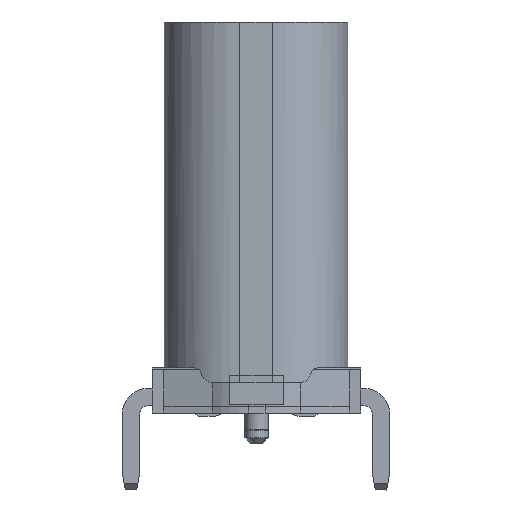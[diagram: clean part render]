
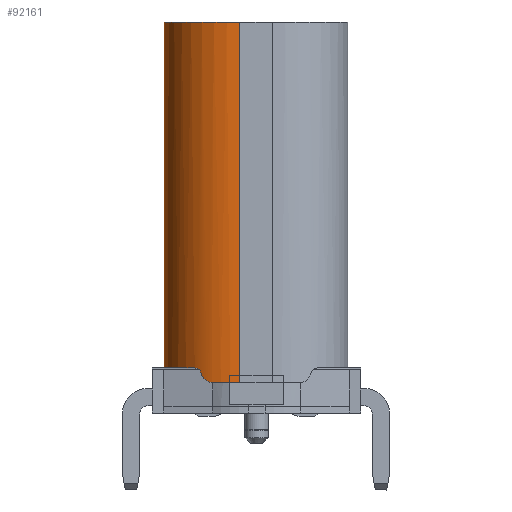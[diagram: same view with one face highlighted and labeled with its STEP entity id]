
A CAD part, left-side view. The second image highlights one B-rep face of the part: STEP entity #92161.
In plain terms, the highlighted cylindrical face has radius 1.3 mm (diameter 2.6 mm), a partial arc.
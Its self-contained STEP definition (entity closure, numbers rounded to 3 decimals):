
#88059=CARTESIAN_POINT('',(-64.57,-1.771,-47.193));
#88060=DIRECTION('',(0.,0.,1.));
#88061=DIRECTION('',(-0.928,0.371,0.));
#88062=AXIS2_PLACEMENT_3D('',#88059,#88060,#88061);
#88087=CARTESIAN_POINT('',(-64.57,-1.771,-40.993));
#88088=DIRECTION('',(0.,0.,1.));
#88089=DIRECTION('',(0.,1.,0.));
#88090=AXIS2_PLACEMENT_3D('',#88087,#88088,#88089);
#88092=DIRECTION('',(0.,0.,-1.));
#88093=VECTOR('',#88092,6.2);
#88094=CARTESIAN_POINT('',(-65.87,-1.771,-40.993));
#88095=LINE('',#88094,#88093);
#88096=CARTESIAN_POINT('',(-65.777,-1.289,
-47.193));
#88097=CARTESIAN_POINT('',(-65.771,-1.273,-47.193));
#88098=CARTESIAN_POINT('',(-65.758,-1.242,
-47.189));
#88099=CARTESIAN_POINT('',(-65.737,-1.197,
-47.169));
#88100=CARTESIAN_POINT('',(-65.718,-1.161,
-47.139));
#88101=CARTESIAN_POINT('',(-65.702,-1.132,
-47.097));
#88102=CARTESIAN_POINT('',(-65.695,-1.12,
-47.067));
#88103=CARTESIAN_POINT('',(-65.693,-1.116,
-47.05));
#88105=DIRECTION('',(0.,0.,1.));
#88106=VECTOR('',#88105,5.95);
#88107=CARTESIAN_POINT('',(-64.57,-0.471,-46.943));
#88108=LINE('',#88107,#88106);
#88169=CARTESIAN_POINT('',(-65.613,-0.996,
-46.943));
#88170=CARTESIAN_POINT('',(-65.621,-1.006,
-46.943));
#88171=CARTESIAN_POINT('',(-65.636,-1.027,
-46.946));
#88172=CARTESIAN_POINT('',(-65.656,-1.057,
-46.961));
#88173=CARTESIAN_POINT('',(-65.673,-1.083,
-46.984));
#88174=CARTESIAN_POINT('',(-65.685,-1.104,
-47.014));
#88175=CARTESIAN_POINT('',(-65.691,-1.113,
-47.038));
#88176=CARTESIAN_POINT('',(-65.693,-1.116,
-47.05));
#88209=CARTESIAN_POINT('',(-64.57,-1.771,-46.943));
#88210=DIRECTION('',(0.,0.,1.));
#88211=DIRECTION('',(0.,1.,0.));
#88212=AXIS2_PLACEMENT_3D('',#88209,#88210,#88211);
#89527=CARTESIAN_POINT('',(-64.57,-0.471,-46.943));
#89529=VERTEX_POINT('',#89527);
#89675=CARTESIAN_POINT('',(-65.613,-0.996,
-46.943));
#89676=VERTEX_POINT('',#89675);
#89697=CARTESIAN_POINT('',(-65.777,-1.289,
-47.193));
#89699=VERTEX_POINT('',#89697);
#89700=CARTESIAN_POINT('',(-65.87,-1.771,-47.193));
#89701=VERTEX_POINT('',#89700);
#89704=VERTEX_POINT('',#88103);
#90003=CARTESIAN_POINT('',(-64.57,-0.471,-40.993));
#90005=VERTEX_POINT('',#90003);
#90013=CARTESIAN_POINT('',(-65.87,-1.771,-40.993));
#90014=VERTEX_POINT('',#90013);
#92143=CARTESIAN_POINT('',(-64.57,-1.771,-58.224));
#92144=DIRECTION('',(0.,0.,1.));
#92145=DIRECTION('',(0.,1.,0.));
#92146=AXIS2_PLACEMENT_3D('',#92143,#92144,#92145);
#92147=CYLINDRICAL_SURFACE('',#92146,1.3);
#92148=ORIENTED_EDGE('',*,*,#90240,.T.);
#92150=ORIENTED_EDGE('',*,*,#92149,.T.);
#92151=ORIENTED_EDGE('',*,*,#92112,.F.);
#92152=ORIENTED_EDGE('',*,*,#92130,.T.);
#92154=ORIENTED_EDGE('',*,*,#92153,.F.);
#92156=ORIENTED_EDGE('',*,*,#92155,.F.);
#92158=ORIENTED_EDGE('',*,*,#92157,.T.);
#92159=EDGE_LOOP('',(#92148,#92150,#92151,#92152,#92154,#92156,#92158));
#92160=FACE_OUTER_BOUND('',#92159,.F.);
#88063=CIRCLE('',#88062,1.3);
#88091=CIRCLE('',#88090,1.3);
#88104=B_SPLINE_CURVE_WITH_KNOTS('',3,(#88096,#88097,#88098,#88099,#88100,
#88101,#88102,#88103),.UNSPECIFIED.,.F.,.F.,(4,1,1,1,1,4),(0.,0.2,0.4,
0.6,0.8,1.),.UNSPECIFIED.);
#88177=B_SPLINE_CURVE_WITH_KNOTS('',3,(#88169,#88170,#88171,#88172,#88173,
#88174,#88175,#88176),.UNSPECIFIED.,.F.,.F.,(4,1,1,1,1,4),(0.,0.2,0.4,
0.6,0.8,1.),.UNSPECIFIED.);
#88213=CIRCLE('',#88212,1.3);
#90240=EDGE_CURVE('',#90005,#90014,#88091,.T.);
#92112=EDGE_CURVE('',#89699,#89701,#88063,.T.);
#92130=EDGE_CURVE('',#89699,#89704,#88104,.T.);
#92149=EDGE_CURVE('',#90014,#89701,#88095,.T.);
#92153=EDGE_CURVE('',#89676,#89704,#88177,.T.);
#92155=EDGE_CURVE('',#89529,#89676,#88213,.T.);
#92157=EDGE_CURVE('',#89529,#90005,#88108,.T.);
#92161=ADVANCED_FACE('',(#92160),#92147,.T.);
